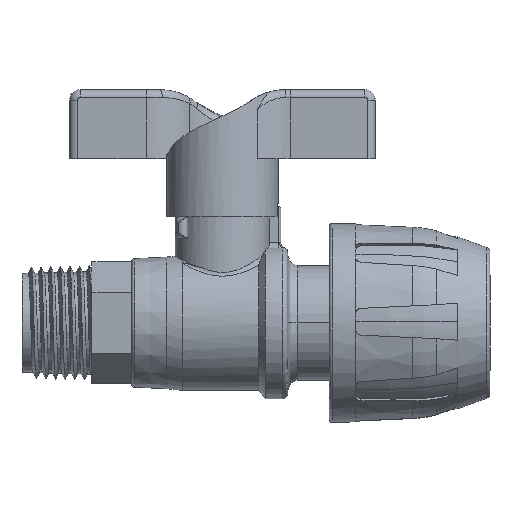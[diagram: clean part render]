
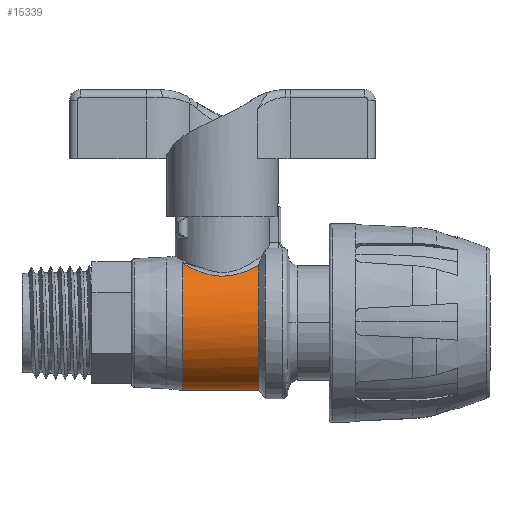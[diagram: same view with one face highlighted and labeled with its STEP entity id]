
A CAD part, front view. The second image highlights one B-rep face of the part: STEP entity #15339.
In plain terms, the highlighted cylindrical face has radius 12.734 mm (diameter 25.469 mm), a partial arc.
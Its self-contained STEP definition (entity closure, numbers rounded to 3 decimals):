
#127 = DIRECTION ( 'NONE',  ( 0., 0., -1. ) ) ;
#276 = ORIENTED_EDGE ( 'NONE', *, *, #18509, .T. ) ;
#290 = EDGE_CURVE ( 'NONE', #664, #3312, #15066, .T. ) ;
#316 = CARTESIAN_POINT ( 'NONE',  ( -9.27, -8.459, 9.52 ) ) ;
#630 = CARTESIAN_POINT ( 'NONE',  ( -20.65, -5.969, 11.249 ) ) ;
#664 = VERTEX_POINT ( 'NONE', #4896 ) ;
#737 = CARTESIAN_POINT ( 'NONE',  ( -12.913, -9.183, 8.823 ) ) ;
#810 = CARTESIAN_POINT ( 'NONE',  ( -20.429, -6.207, 11.122 ) ) ;
#1021 = DIRECTION ( 'NONE',  ( 1., 0., 0. ) ) ;
#1436 = CIRCLE ( 'NONE', #2256, 12.734 ) ;
#2256 = AXIS2_PLACEMENT_3D ( 'NONE', #15923, #6376, #17502 ) ;
#2328 = CARTESIAN_POINT ( 'NONE',  ( -13.961, -9.152, 8.854 ) ) ;
#3175 = VERTEX_POINT ( 'NONE', #630 ) ;
#3254 = CARTESIAN_POINT ( 'NONE',  ( -7.248, -7.41, 10.365 ) ) ;
#3312 = VERTEX_POINT ( 'NONE', #18411 ) ;
#3920 = CARTESIAN_POINT ( 'NONE',  ( -14.99, -9.021, 8.988 ) ) ;
#4422 = EDGE_CURVE ( 'NONE', #18206, #3312, #7203, .T. ) ;
#4835 = CARTESIAN_POINT ( 'NONE',  ( -8.372, -8.057, 9.863 ) ) ;
#4896 = CARTESIAN_POINT ( 'NONE',  ( -20.65, 0., -12.734 ) ) ;
#5508 = CARTESIAN_POINT ( 'NONE',  ( -16.306, -8.716, 9.287 ) ) ;
#6376 = DIRECTION ( 'NONE',  ( 1., 0., 0. ) ) ;
#7038 = CARTESIAN_POINT ( 'NONE',  ( -10.214, -8.778, 9.226 ) ) ;
#7117 = CARTESIAN_POINT ( 'NONE',  ( -18.124, -7.948, 9.956 ) ) ;
#7203 = CIRCLE ( 'NONE', #19458, 12.734 ) ;
#8413 = EDGE_LOOP ( 'NONE', ( #10415, #15887, #17095, #276 ) ) ;
#8658 = CARTESIAN_POINT ( 'NONE',  ( -11.208, -9.011, 8.999 ) ) ;
#8737 = CARTESIAN_POINT ( 'NONE',  ( -19.46, -7.063, 10.599 ) ) ;
#10277 = CARTESIAN_POINT ( 'NONE',  ( -12.225, -9.146, 8.86 ) ) ;
#10346 = CARTESIAN_POINT ( 'NONE',  ( -20.198, -6.433, 10.993 ) ) ;
#10415 = ORIENTED_EDGE ( 'NONE', *, *, #16778, .T. ) ;
#10547 = CARTESIAN_POINT ( 'NONE',  ( -6.247, 0., 0. ) ) ;
#10565 = CARTESIAN_POINT ( 'NONE',  ( 0., 0., -12.734 ) ) ;
#10864 = VECTOR ( 'NONE', #11871, 1000. ) ;
#11118 = CARTESIAN_POINT ( 'NONE',  ( -6.247, -6.6, 10.891 ) ) ;
#11860 = CARTESIAN_POINT ( 'NONE',  ( -13.262, -9.184, 8.821 ) ) ;
#11871 = DIRECTION ( 'NONE',  ( 1., 0., 0. ) ) ;
#11927 = CARTESIAN_POINT ( 'NONE',  ( -20.65, -5.969, 11.249 ) ) ;
#12131 = DIRECTION ( 'NONE',  ( 0., 0., -1. ) ) ;
#12837 = DIRECTION ( 'NONE',  ( 1., 0., 0. ) ) ;
#13436 = CARTESIAN_POINT ( 'NONE',  ( -14.309, -9.119, 8.889 ) ) ;
#14373 = CARTESIAN_POINT ( 'NONE',  ( -8.083, -7.904, 9.987 ) ) ;
#14928 = CARTESIAN_POINT ( 'NONE',  ( -6.247, -6.6, 10.891 ) ) ;
#15050 = CARTESIAN_POINT ( 'NONE',  ( -15.323, -8.956, 9.053 ) ) ;
#15066 = LINE ( 'NONE', #10565, #10864 ) ;
#15339 = ADVANCED_FACE ( 'NONE', ( #20283 ), #19784, .T. ) ;
#15753 = B_SPLINE_CURVE_WITH_KNOTS ( 'NONE', 3,
 ( #11118, #15914, #3254, #14373, #4835, #15972, #316, #16572, #7038, #18170, #8658, #19746, #10277, #737, #11860, #2328, #13436, #3920, #15050, #5508, #16645, #7117, #18240, #8737, #19812, #10346, #810, #11927 ),
 .UNSPECIFIED., .F., .F.,
 ( 4, 2, 2, 2, 2, 2, 2, 2, 2, 2, 2, 2, 2, 4 ),
 ( 0., 0.002, 0.003, 0.004, 0.005, 0.006, 0.007, 0.008, 0.009, 0.01, 0.012, 0.015, 0.016, 0.017 ),
 .UNSPECIFIED. ) ;
#15887 = ORIENTED_EDGE ( 'NONE', *, *, #290, .T. ) ;
#15914 = CARTESIAN_POINT ( 'NONE',  ( -6.73, -7.032, 10.629 ) ) ;
#15923 = CARTESIAN_POINT ( 'NONE',  ( -20.65, 0., 0. ) ) ;
#15972 = CARTESIAN_POINT ( 'NONE',  ( -8.966, -8.334, 9.63 ) ) ;
#16572 = CARTESIAN_POINT ( 'NONE',  ( -9.894, -8.681, 9.318 ) ) ;
#16645 = CARTESIAN_POINT ( 'NONE',  ( -16.941, -8.493, 9.495 ) ) ;
#16778 = EDGE_CURVE ( 'NONE', #3175, #664, #1436, .T. ) ;
#17095 = ORIENTED_EDGE ( 'NONE', *, *, #4422, .F. ) ;
#17502 = DIRECTION ( 'NONE',  ( 0., 0., -1. ) ) ;
#17989 = AXIS2_PLACEMENT_3D ( 'NONE', #19154, #12837, #127 ) ;
#18170 = CARTESIAN_POINT ( 'NONE',  ( -10.872, -8.943, 9.066 ) ) ;
#18206 = VERTEX_POINT ( 'NONE', #14928 ) ;
#18240 = CARTESIAN_POINT ( 'NONE',  ( -18.678, -7.626, 10.209 ) ) ;
#18411 = CARTESIAN_POINT ( 'NONE',  ( -6.247, 0., -12.734 ) ) ;
#18509 = EDGE_CURVE ( 'NONE', #18206, #3175, #15753, .T. ) ;
#19154 = CARTESIAN_POINT ( 'NONE',  ( 0., 0., 0. ) ) ;
#19458 = AXIS2_PLACEMENT_3D ( 'NONE', #10547, #1021, #12131 ) ;
#19746 = CARTESIAN_POINT ( 'NONE',  ( -11.884, -9.112, 8.896 ) ) ;
#19784 = CYLINDRICAL_SURFACE ( 'NONE', #17989, 12.734 ) ;
#19812 = CARTESIAN_POINT ( 'NONE',  ( -19.714, -6.861, 10.731 ) ) ;
#20283 = FACE_OUTER_BOUND ( 'NONE', #8413, .T. ) ;
